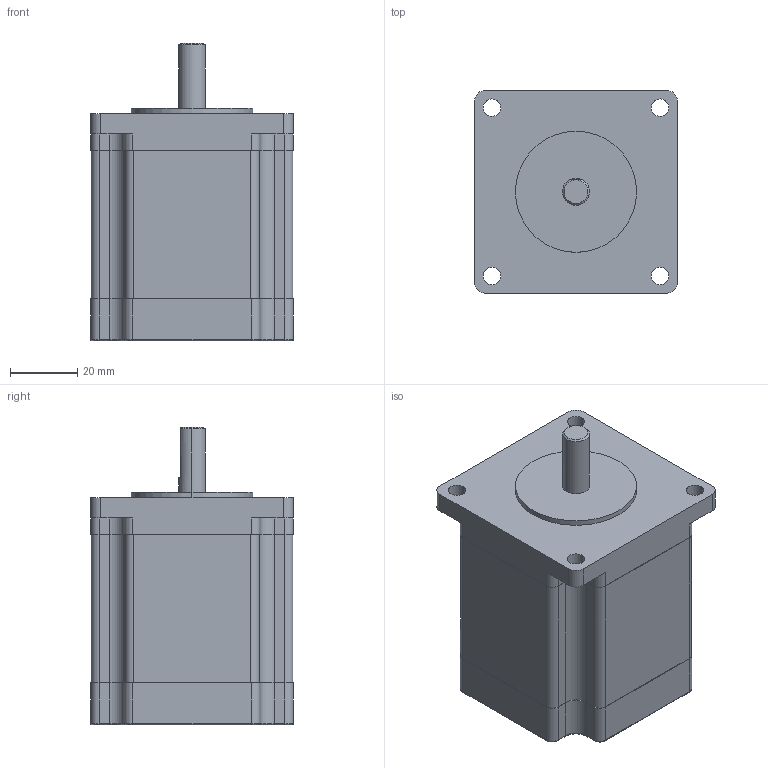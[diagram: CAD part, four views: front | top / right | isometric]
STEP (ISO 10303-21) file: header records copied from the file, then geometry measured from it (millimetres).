
FILE_DESCRIPTION (( 'STEP AP203' ), '1' );
FILE_NAME ('60CM22X.STEP', '2017-10-12T03:48:16', ( 'Microsoft' ), ( 'China' ), 'SwSTEP 2.0', 'SolidWorks 2011', '' );
FILE_SCHEMA (( 'CONFIG_CONTROL_DESIGN' ));
Length unit declared in the file: millimetre
Products named in the file (1): 60CM22X
Bounding box: 60.2 x 60.2 x 88.5 mm (x, y, z)
Volume: 220994 mm3; surface area: 23438.2 mm2
Topology: 1 solids, 1 shells, 130 faces, 342 edges, 219 vertices
Faces by surface type: cylinder 66, plane 49, torus 12, cone 3
Entity records: 4140 total; most frequent: DIRECTION 751, CARTESIAN_POINT 704, ORIENTED_EDGE 684, EDGE_CURVE 342, AXIS2_PLACEMENT_3D 280, VERTEX_POINT 219, LINE 191, VECTOR 191
